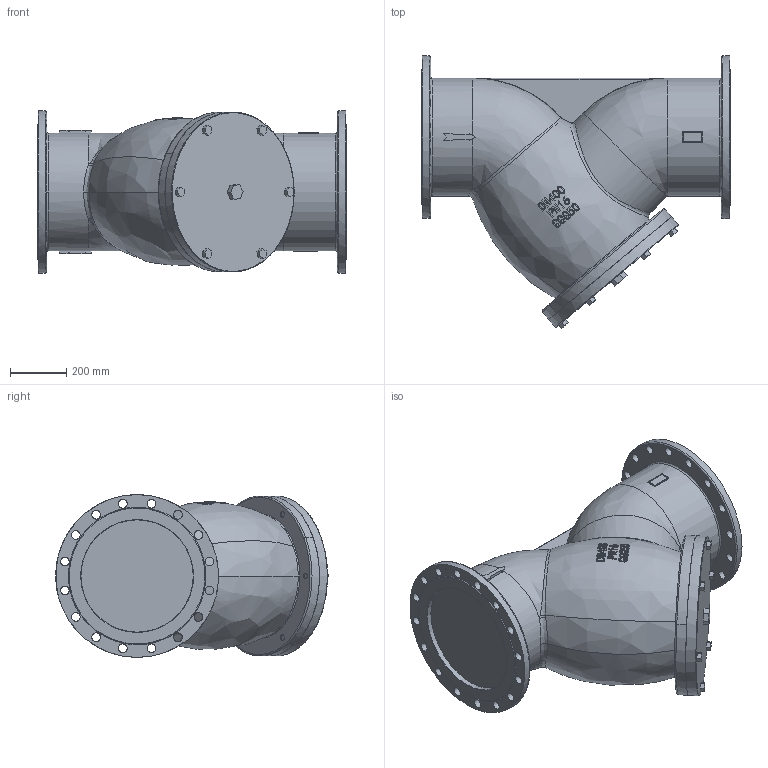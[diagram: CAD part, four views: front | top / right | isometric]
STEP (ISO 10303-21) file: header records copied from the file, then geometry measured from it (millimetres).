
FILE_DESCRIPTION (( 'STEP AP214' ), '1' );
FILE_NAME ('DN400.STEP', '2026-09-13T12:37:53', ( '' ), ( '' ), 'SwSTEP 2.0', 'SolidWorks 2024', '' );
FILE_SCHEMA (( 'AUTOMOTIVE_DESIGN' ));
Length unit declared in the file: millimetre
Products named in the file (1): DN400
Bounding box: 1100 x 971.16 x 580 mm (x, y, z)
Volume: 221878849.5 mm3; surface area: 4187181.9 mm2
Topology: 1 solids, 4 shells, 476 faces, 1254 edges, 831 vertices
Faces by surface type: bspline 250, plane 113, cylinder 91, torus 12, cone 10
Full cylindrical faces by diameter (mm): 21 x12, 22 x6, 31 x32, 45 x1, 400 x2, 420 x2, 430 x1, 570 x1, 580 x2
Entity records: 87281 total; most frequent: CARTESIAN_POINT 73641, ORIENTED_EDGE 2282, EDGE_CURVE 1141, DIRECTION 984, VERTEX_POINT 814, B_SPLINE_CURVE_WITH_KNOTS 721, EDGE_LOOP 693, FACE_OUTER_BOUND 551
